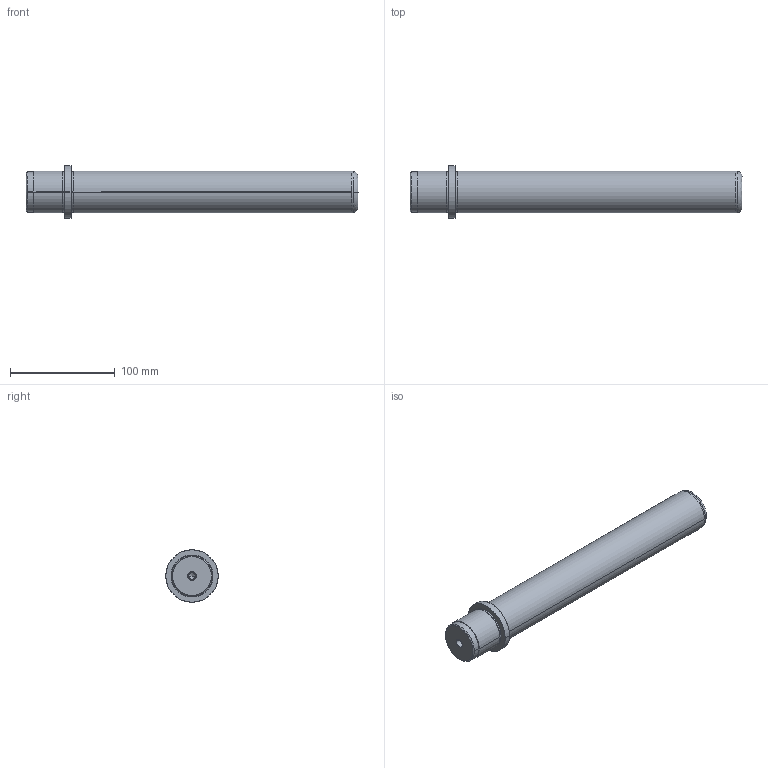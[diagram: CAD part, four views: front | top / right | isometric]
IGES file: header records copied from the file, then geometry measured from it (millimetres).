
Start section: SolidWorks IGES FILE using analytic representation for surfaces
Global section: file name: D:\zzzzz\Delta\D06\40\D06 - 40x280x37.IGS; native system: SolidWorks 2004 by SolidWorks Corporation; preprocessor: Version 5.3; author: Hkn; date: 080327.151204; units: millimetre
Bounding box: 317 x 50 x 50 mm (x, y, z)
Surface area: 44976.1 mm2 (no closed solid volume)
Topology: 0 solids, 0 shells, 39 faces, 1080 edges, 1076 vertices
Faces by surface type: revolution 28, bspline 11
